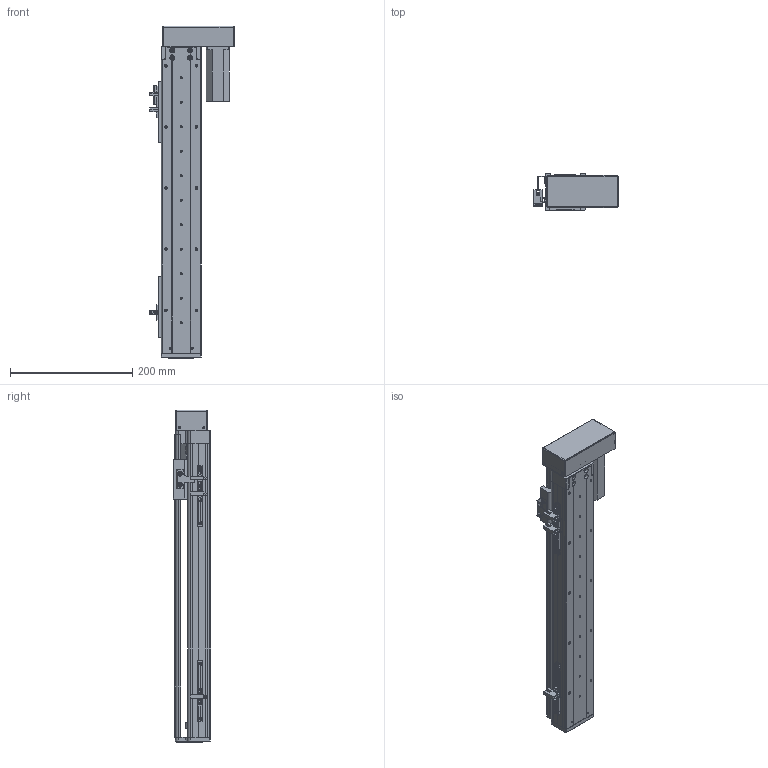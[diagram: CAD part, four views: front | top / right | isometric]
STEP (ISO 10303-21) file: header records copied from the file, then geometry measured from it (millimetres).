
FILE_DESCRIPTION (( 'STEP AP203' ), '1' );
FILE_NAME ('RY60-L1210-300-RK.SLDASM_350.step', '2021-02-20T06:52:32', ( '盈信电脑' ), ( '东莞市道滘镇水果街19号' ), 'SwSTEP 2.0', 'SolidWorks 2012', '' );
FILE_SCHEMA (( 'CONFIG_CONTROL_DESIGN' ));
Length unit declared in the file: millimetre
Products named in the file (13): RY60-L1210-300-RK.SLDASM_350; 覜茼ん672; 672嫖萇羲壽假蚾釱; RY60酘衵殏萇儂欶; 侂狟100W; RY80俋离覜茼え; RY60转折电机端支撑座; RY60綴裔啣; 滅袉蝶18-10; RY60左右折电机安装板; RY60臏賑輸; RY60-300倰第菁釱-RK_350; RY60-300倰第裔啣-RK_350
Assembly tree (18 placements, depth 2):
  RY60-L1210-300-RK.SLDASM_350
    RY60-300倰第菁釱-RK_350
    RY60臏賑輸
    RY60-300倰第裔啣-RK_350
    RY60綴裔啣
    滅袉蝶18-10  x4
    RY60转折电机端支撑座
    RY60左右折电机安装板
    侂狟100W
    RY60酘衵殏萇儂欶
    RY80俋离覜茼え
    672嫖萇羲壽假蚾釱  x2
    覜茼ん672  x3
Bounding box: 137.9 x 61 x 543 mm (x, y, z)
Volume: 774768.8 mm3; surface area: 385360 mm2
Topology: 18 solids, 18 shells, 1405 faces, 3911 edges, 2506 vertices
Faces by surface type: plane 705, cylinder 579, cone 104, bspline 17
Entity records: 41470 total; most frequent: CARTESIAN_POINT 9651, ORIENTED_EDGE 6398, DIRECTION 6225, EDGE_CURVE 3199, AXIS2_PLACEMENT_3D 2130, VERTEX_POINT 2086, LINE 1965, VECTOR 1965
